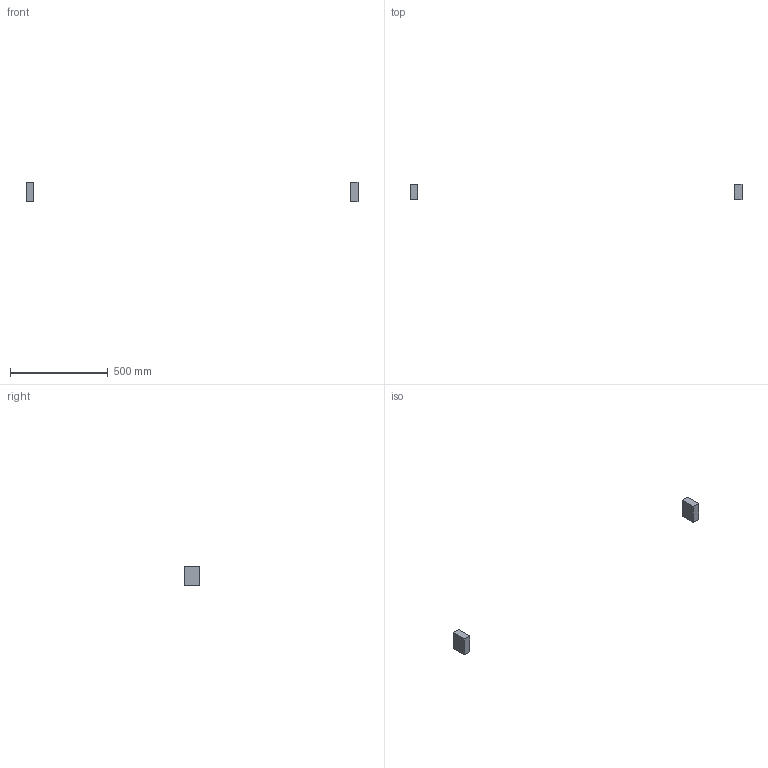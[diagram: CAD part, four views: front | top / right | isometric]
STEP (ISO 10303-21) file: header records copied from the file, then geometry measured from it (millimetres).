
FILE_DESCRIPTION(/* description */ (''),/* implementation_level */ '2;1');
FILE_NAME(/* name */ '3.frame-top#3.1#HFS5-4080-100',/* time_stamp */ '2014-12-01T20:11:47+01:00',/* author */ (''),/* organization */ (''),/* preprocessor_version */ 'ST-DEVELOPER v14',/* originating_system */ '',/* authorisation */ '');
FILE_SCHEMA (('AUTOMOTIVE_DESIGN'));
Length unit declared in the file: millimetre
Products named in the file (1): Document
Bounding box: 1700 x 80 x 100 mm (x, y, z)
Volume: 640000 mm3; surface area: 60800 mm2
Topology: 2 solids, 2 shells, 12 faces, 24 edges, 16 vertices
Faces by surface type: plane 12
Entity records: 571 total; most frequent: CARTESIAN_POINT 174, B_SPLINE_CURVE_WITH_KNOTS 72, ORIENTED_EDGE 48, PCURVE 48, DEFINITIONAL_REPRESENTATION 48, SURFACE_CURVE 24, EDGE_CURVE 24, VERTEX_POINT 16
